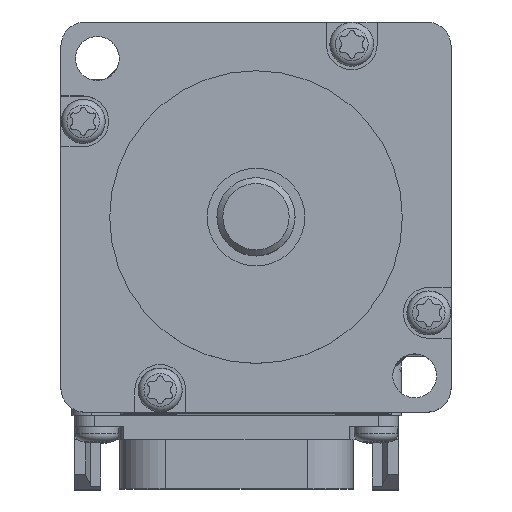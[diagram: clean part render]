
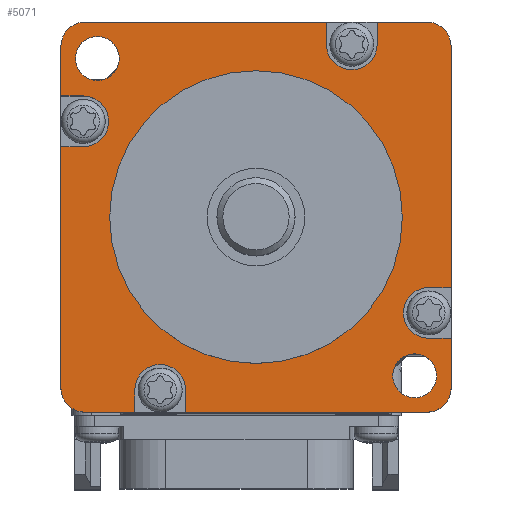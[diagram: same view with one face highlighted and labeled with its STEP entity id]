
A CAD part, top view. The second image highlights one B-rep face of the part: STEP entity #5071.
In plain terms, the highlighted planar face has unit normal (0, 0, 1).
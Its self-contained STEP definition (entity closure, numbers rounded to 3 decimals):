
#5071=ADVANCED_FACE('',(#10415,#10417,#10419,#10421),#10423,.T.);
#10415=FACE_BOUND('',#10416,.T.);
#10416=EDGE_LOOP('',(#14315,#14316,#14317,#14318,#14319,#14320,#14321,#14322,#14323,
#14324,#14325,#14326,#14327,#14328,#14329,#14330,#14331,#14332,#14333,#14334,#14335,
#14336,#14337,#14338));
#10417=FACE_BOUND('',#10418,.T.);
#10418=EDGE_LOOP('',(#14339));
#10419=FACE_BOUND('',#10420,.T.);
#10420=EDGE_LOOP('',(#14340));
#10421=FACE_BOUND('',#10422,.T.);
#10422=EDGE_LOOP('',(#14341));
#10423=PLANE('',#10424);
#10424=AXIS2_PLACEMENT_3D('',#10425,#10426,#10427);
#10425=CARTESIAN_POINT('',(0.,0.,0.));
#10426=DIRECTION('',(0.,0.,1.));
#10427=DIRECTION('',(1.,0.,0.));
#14315=ORIENTED_EDGE('',*,*,#16377,.T.);
#14316=ORIENTED_EDGE('',*,*,#16489,.T.);
#14317=ORIENTED_EDGE('',*,*,#16490,.F.);
#14318=ORIENTED_EDGE('',*,*,#16491,.T.);
#14319=ORIENTED_EDGE('',*,*,#16373,.T.);
#14320=ORIENTED_EDGE('',*,*,#16403,.F.);
#14321=ORIENTED_EDGE('',*,*,#16401,.T.);
#14322=ORIENTED_EDGE('',*,*,#16492,.T.);
#14323=ORIENTED_EDGE('',*,*,#16493,.F.);
#14324=ORIENTED_EDGE('',*,*,#16494,.T.);
#14325=ORIENTED_EDGE('',*,*,#16397,.T.);
#14326=ORIENTED_EDGE('',*,*,#16395,.F.);
#14327=ORIENTED_EDGE('',*,*,#16393,.T.);
#14328=ORIENTED_EDGE('',*,*,#16495,.T.);
#14329=ORIENTED_EDGE('',*,*,#16496,.F.);
#14330=ORIENTED_EDGE('',*,*,#16497,.T.);
#14331=ORIENTED_EDGE('',*,*,#16389,.T.);
#14332=ORIENTED_EDGE('',*,*,#16387,.F.);
#14333=ORIENTED_EDGE('',*,*,#16385,.T.);
#14334=ORIENTED_EDGE('',*,*,#16498,.T.);
#14335=ORIENTED_EDGE('',*,*,#16499,.F.);
#14336=ORIENTED_EDGE('',*,*,#16500,.T.);
#14337=ORIENTED_EDGE('',*,*,#16381,.T.);
#14338=ORIENTED_EDGE('',*,*,#16379,.F.);
#14339=ORIENTED_EDGE('',*,*,#16412,.F.);
#14340=ORIENTED_EDGE('',*,*,#16411,.F.);
#14341=ORIENTED_EDGE('',*,*,#16501,.F.);
#16373=EDGE_CURVE('',#19131,#19129,#19132,.T.);
#16377=EDGE_CURVE('',#19139,#19137,#19140,.T.);
#16379=EDGE_CURVE('',#19139,#19142,#19143,.T.);
#16381=EDGE_CURVE('',#19145,#19142,#19146,.T.);
#16385=EDGE_CURVE('',#19153,#19151,#19154,.T.);
#16387=EDGE_CURVE('',#19153,#19156,#19157,.T.);
#16389=EDGE_CURVE('',#19159,#19156,#19160,.T.);
#16393=EDGE_CURVE('',#19167,#19165,#19168,.T.);
#16395=EDGE_CURVE('',#19167,#19170,#19171,.T.);
#16397=EDGE_CURVE('',#19173,#19170,#19174,.T.);
#16401=EDGE_CURVE('',#19181,#19179,#19182,.T.);
#16403=EDGE_CURVE('',#19181,#19129,#19184,.T.);
#16411=EDGE_CURVE('',#19194,#19194,#19195,.T.);
#16412=EDGE_CURVE('',#19196,#19196,#19197,.T.);
#16489=EDGE_CURVE('',#19137,#19324,#19325,.T.);
#16490=EDGE_CURVE('',#19326,#19324,#19327,.T.);
#16491=EDGE_CURVE('',#19326,#19131,#19328,.T.);
#16492=EDGE_CURVE('',#19179,#19329,#19330,.T.);
#16493=EDGE_CURVE('',#19331,#19329,#19332,.T.);
#16494=EDGE_CURVE('',#19331,#19173,#19333,.T.);
#16495=EDGE_CURVE('',#19165,#19334,#19335,.T.);
#16496=EDGE_CURVE('',#19336,#19334,#19337,.T.);
#16497=EDGE_CURVE('',#19336,#19159,#19338,.T.);
#16498=EDGE_CURVE('',#19151,#19339,#19340,.T.);
#16499=EDGE_CURVE('',#19341,#19339,#19342,.T.);
#16500=EDGE_CURVE('',#19341,#19145,#19343,.T.);
#16501=EDGE_CURVE('',#19344,#19344,#19345,.T.);
#19129=VERTEX_POINT('',#28681);
#19131=VERTEX_POINT('',#28685);
#19132=LINE('',#28686,#28687);
#19137=VERTEX_POINT('',#28697);
#19139=VERTEX_POINT('',#28701);
#19140=LINE('',#28702,#28703);
#19142=VERTEX_POINT('',#28708);
#19143=CIRCLE('',#28709,2.5);
#19145=VERTEX_POINT('',#28716);
#19146=LINE('',#28717,#28718);
#19151=VERTEX_POINT('',#28728);
#19153=VERTEX_POINT('',#28732);
#19154=LINE('',#28733,#28734);
#19156=VERTEX_POINT('',#28739);
#19157=CIRCLE('',#28740,2.5);
#19159=VERTEX_POINT('',#28747);
#19160=LINE('',#28748,#28749);
#19165=VERTEX_POINT('',#28759);
#19167=VERTEX_POINT('',#28763);
#19168=LINE('',#28764,#28765);
#19170=VERTEX_POINT('',#28770);
#19171=CIRCLE('',#28771,2.5);
#19173=VERTEX_POINT('',#28778);
#19174=LINE('',#28779,#28780);
#19179=VERTEX_POINT('',#28790);
#19181=VERTEX_POINT('',#28794);
#19182=LINE('',#28795,#28796);
#19184=CIRCLE('',#28801,2.5);
#19194=VERTEX_POINT('',#28831);
#19195=CIRCLE('',#28832,2.25);
#19196=VERTEX_POINT('',#28836);
#19197=CIRCLE('',#28837,2.25);
#19324=VERTEX_POINT('',#29473);
#19325=LINE('',#29474,#29475);
#19326=VERTEX_POINT('',#29477);
#19327=CIRCLE('',#29478,2.6);
#19328=LINE('',#29482,#29483);
#19329=VERTEX_POINT('',#29485);
#19330=LINE('',#29486,#29487);
#19331=VERTEX_POINT('',#29489);
#19332=CIRCLE('',#29490,2.6);
#19333=LINE('',#29494,#29495);
#19334=VERTEX_POINT('',#29497);
#19335=LINE('',#29498,#29499);
#19336=VERTEX_POINT('',#29501);
#19337=CIRCLE('',#29502,2.6);
#19338=LINE('',#29506,#29507);
#19339=VERTEX_POINT('',#29509);
#19340=LINE('',#29510,#29511);
#19341=VERTEX_POINT('',#29513);
#19342=CIRCLE('',#29514,2.6);
#19343=LINE('',#29518,#29519);
#19344=VERTEX_POINT('',#29521);
#19345=CIRCLE('',#29522,15.);
#28681=CARTESIAN_POINT('',(-17.5,20.,0.));
#28685=CARTESIAN_POINT('',(7.217,20.,0.));
#28686=CARTESIAN_POINT('',(7.217,20.,0.));
#28687=VECTOR('',#28688,1.);
#28688=DIRECTION('',(-1.,0.,0.));
#28697=CARTESIAN_POINT('',(12.417,20.,0.));
#28701=CARTESIAN_POINT('',(17.5,20.,0.));
#28702=CARTESIAN_POINT('',(17.5,20.,0.));
#28703=VECTOR('',#28704,1.);
#28704=DIRECTION('',(-1.,0.,0.));
#28708=CARTESIAN_POINT('',(20.,17.5,0.));
#28709=AXIS2_PLACEMENT_3D('',#28710,#28711,#28712);
#28710=CARTESIAN_POINT('',(17.5,17.5,0.));
#28711=DIRECTION('',(0.,0.,-1.));
#28712=DIRECTION('',(0.,1.,0.));
#28716=CARTESIAN_POINT('',(20.,-7.217,0.));
#28717=CARTESIAN_POINT('',(20.,-7.217,0.));
#28718=VECTOR('',#28719,1.);
#28719=DIRECTION('',(0.,1.,0.));
#28728=CARTESIAN_POINT('',(20.,-12.417,0.));
#28732=CARTESIAN_POINT('',(20.,-17.5,0.));
#28733=CARTESIAN_POINT('',(20.,-17.5,0.));
#28734=VECTOR('',#28735,1.);
#28735=DIRECTION('',(0.,1.,0.));
#28739=CARTESIAN_POINT('',(17.5,-20.,0.));
#28740=AXIS2_PLACEMENT_3D('',#28741,#28742,#28743);
#28741=CARTESIAN_POINT('',(17.5,-17.5,0.));
#28742=DIRECTION('',(0.,0.,-1.));
#28743=DIRECTION('',(1.,0.,0.));
#28747=CARTESIAN_POINT('',(-7.217,-20.,0.));
#28748=CARTESIAN_POINT('',(-7.217,-20.,0.));
#28749=VECTOR('',#28750,1.);
#28750=DIRECTION('',(1.,0.,0.));
#28759=CARTESIAN_POINT('',(-12.417,-20.,0.));
#28763=CARTESIAN_POINT('',(-17.5,-20.,0.));
#28764=CARTESIAN_POINT('',(-17.5,-20.,0.));
#28765=VECTOR('',#28766,1.);
#28766=DIRECTION('',(1.,0.,0.));
#28770=CARTESIAN_POINT('',(-20.,-17.5,0.));
#28771=AXIS2_PLACEMENT_3D('',#28772,#28773,#28774);
#28772=CARTESIAN_POINT('',(-17.5,-17.5,0.));
#28773=DIRECTION('',(0.,0.,-1.));
#28774=DIRECTION('',(0.,-1.,0.));
#28778=CARTESIAN_POINT('',(-20.,7.217,0.));
#28779=CARTESIAN_POINT('',(-20.,7.217,0.));
#28780=VECTOR('',#28781,1.);
#28781=DIRECTION('',(0.,-1.,0.));
#28790=CARTESIAN_POINT('',(-20.,12.417,0.));
#28794=CARTESIAN_POINT('',(-20.,17.5,0.));
#28795=CARTESIAN_POINT('',(-20.,17.5,0.));
#28796=VECTOR('',#28797,1.);
#28797=DIRECTION('',(0.,-1.,0.));
#28801=AXIS2_PLACEMENT_3D('',#28802,#28803,#28804);
#28802=CARTESIAN_POINT('',(-17.5,17.5,0.));
#28803=DIRECTION('',(0.,0.,-1.));
#28804=DIRECTION('',(-1.,0.,0.));
#28831=CARTESIAN_POINT('',(-16.263,14.013,0.));
#28832=AXIS2_PLACEMENT_3D('',#28833,#28834,#28835);
#28833=CARTESIAN_POINT('',(-16.263,16.263,0.));
#28834=DIRECTION('',(0.,0.,1.));
#28835=DIRECTION('',(0.,1.,0.));
#28836=CARTESIAN_POINT('',(16.263,-14.013,0.));
#28837=AXIS2_PLACEMENT_3D('',#28838,#28839,#28840);
#28838=CARTESIAN_POINT('',(16.263,-16.263,0.));
#28839=DIRECTION('',(0.,0.,1.));
#28840=DIRECTION('',(0.,-1.,0.));
#29473=CARTESIAN_POINT('',(12.417,17.711,0.));
#29474=CARTESIAN_POINT('',(12.417,20.,0.));
#29475=VECTOR('',#29476,1.);
#29476=DIRECTION('',(0.,-1.,0.));
#29477=CARTESIAN_POINT('',(7.217,17.711,0.));
#29478=AXIS2_PLACEMENT_3D('',#29479,#29480,#29481);
#29479=CARTESIAN_POINT('',(9.817,17.711,0.));
#29480=DIRECTION('',(0.,-0.,1.));
#29481=DIRECTION('',(-1.,0.,0.));
#29482=CARTESIAN_POINT('',(7.217,17.711,0.));
#29483=VECTOR('',#29484,1.);
#29484=DIRECTION('',(0.,1.,0.));
#29485=CARTESIAN_POINT('',(-17.711,12.417,0.));
#29486=CARTESIAN_POINT('',(-20.,12.417,0.));
#29487=VECTOR('',#29488,1.);
#29488=DIRECTION('',(1.,0.,0.));
#29489=CARTESIAN_POINT('',(-17.711,7.217,0.));
#29490=AXIS2_PLACEMENT_3D('',#29491,#29492,#29493);
#29491=CARTESIAN_POINT('',(-17.711,9.817,0.));
#29492=DIRECTION('',(-0.,0.,1.));
#29493=DIRECTION('',(0.,-1.,0.));
#29494=CARTESIAN_POINT('',(-17.711,7.217,0.));
#29495=VECTOR('',#29496,1.);
#29496=DIRECTION('',(-1.,0.,0.));
#29497=CARTESIAN_POINT('',(-12.417,-17.711,0.));
#29498=CARTESIAN_POINT('',(-12.417,-20.,0.));
#29499=VECTOR('',#29500,1.);
#29500=DIRECTION('',(0.,1.,0.));
#29501=CARTESIAN_POINT('',(-7.217,-17.711,0.));
#29502=AXIS2_PLACEMENT_3D('',#29503,#29504,#29505);
#29503=CARTESIAN_POINT('',(-9.817,-17.711,0.));
#29504=DIRECTION('',(-0.,0.,1.));
#29505=DIRECTION('',(1.,0.,0.));
#29506=CARTESIAN_POINT('',(-7.217,-17.711,0.));
#29507=VECTOR('',#29508,1.);
#29508=DIRECTION('',(0.,-1.,0.));
#29509=CARTESIAN_POINT('',(17.711,-12.417,0.));
#29510=CARTESIAN_POINT('',(20.,-12.417,0.));
#29511=VECTOR('',#29512,1.);
#29512=DIRECTION('',(-1.,0.,0.));
#29513=CARTESIAN_POINT('',(17.711,-7.217,0.));
#29514=AXIS2_PLACEMENT_3D('',#29515,#29516,#29517);
#29515=CARTESIAN_POINT('',(17.711,-9.817,0.));
#29516=DIRECTION('',(0.,-0.,1.));
#29517=DIRECTION('',(0.,1.,0.));
#29518=CARTESIAN_POINT('',(17.711,-7.217,0.));
#29519=VECTOR('',#29520,1.);
#29520=DIRECTION('',(1.,0.,0.));
#29521=CARTESIAN_POINT('',(15.,0.,0.));
#29522=AXIS2_PLACEMENT_3D('',#29523,#29524,#29525);
#29523=CARTESIAN_POINT('',(0.,0.,0.));
#29524=DIRECTION('',(0.,0.,1.));
#29525=DIRECTION('',(-1.,0.,-0.));
